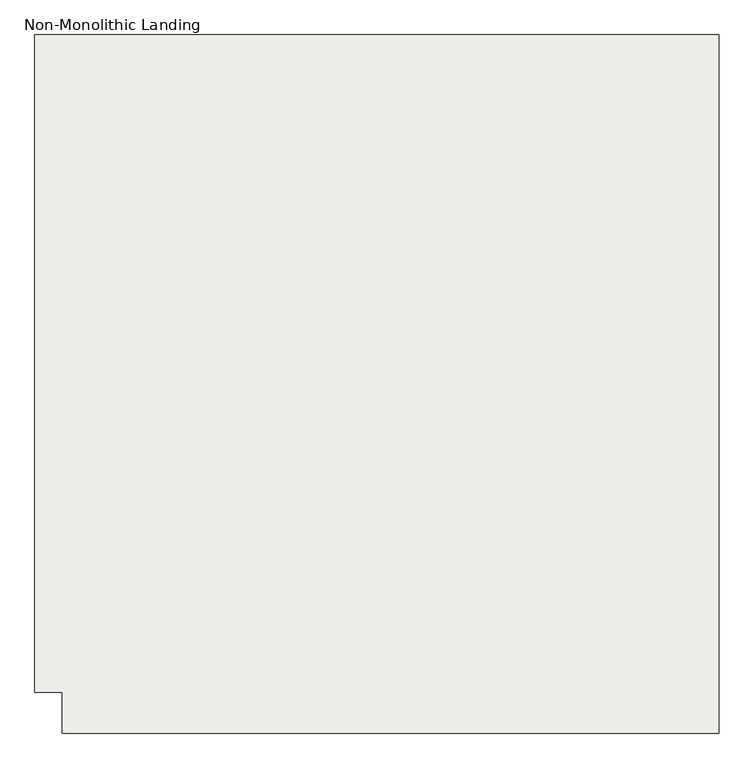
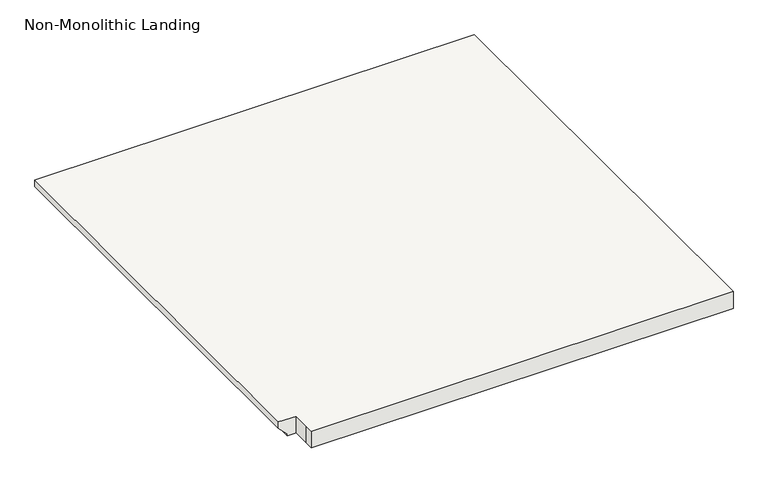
"""IFC4 building model written with IfcOpenShell, lengths in millimetres: slab geometry, Non-Monolithic Landing."""

from ifc_helpers import new_model, si_unit, origin, place, context, project, spatial, faceted_brep, source, transform, mapped, element, save


def non_monolithic_landing_285780d2(model_context):
    return source(origin(), model_context, "Body", "Brep", [
        faceted_brep([(18450.2726301, 7827.7746638, 6400.8), (18450.2726301, 7776.9746638, 6400.8), (18450.2726301, 7751.5746638, 6400.8), (19669.4726301, 7751.5746638, 6400.8), (19669.4726301, 7776.9746638, 6400.8), (19669.4726301, 9046.9746638, 6400.8), (18399.4726301, 9046.9746638, 6400.8), (18399.4726301, 7827.7746638, 6400.8), (18424.8726301, 7827.7746638, 6350.0), (18424.8726301, 9046.9746638, 6350.0), (19669.4726301, 9046.9746638, 6350.0), (19669.4726301, 7776.9746638, 6350.0), (19669.4726301, 7751.5746638, 6350.0), (18450.2726301, 7751.5746638, 6350.0), (18450.2726301, 7776.9746638, 6350.0), (18450.2726301, 7827.7746638, 6350.0), (18399.4726301, 7827.7746638, 6381.75), (18424.8726301, 7827.7746638, 6356.35), (18399.4726301, 9046.9746638, 6381.75), (18424.8726301, 9046.9746638, 6356.35)], [[[0, 1, 2, 3, 4, 5, 6, 7]], [[8, 9, 10, 11, 12, 13, 14, 15]], [[0, 7, 16, 17, 8, 15]], [[2, 1, 14, 13]], [[4, 3, 12, 11]], [[5, 4, 11, 10]], [[16, 7, 6, 18]], [[17, 16, 18, 19]], [[9, 8, 17, 19]], [[1, 0, 15, 14]], [[3, 2, 13, 12]], [[6, 5, 10, 9, 19, 18]]]),
    ])


if __name__ == "__main__":
    model = new_model("IFC4")
    model_context = context("Model", 3, world=origin())
    ifc_project = project(units=[si_unit("LENGTHUNIT", "METRE", prefix="MILLI")], contexts=[model_context])
    site = spatial("IfcSite", under=ifc_project)
    building = spatial("IfcBuilding", under=site)
    placement = place(None, origin())
    non_monolithic_landing_shape = non_monolithic_landing_285780d2(model_context)
    element("IfcSlab", 1, ObjectType="Non-Monolithic Landing", at=placement, inside=building, context=model_context, shape_type="MappedRepresentation", body=[
        mapped(non_monolithic_landing_shape, transform((0.0, 0.0, 0.0), x_axis=(1.0, 0.0, 0.0), y_axis=(0.0, 1.0, 0.0), z_axis=(0.0, 0.0, 1.0))),
    ])
    save(model, "model.ifc")
